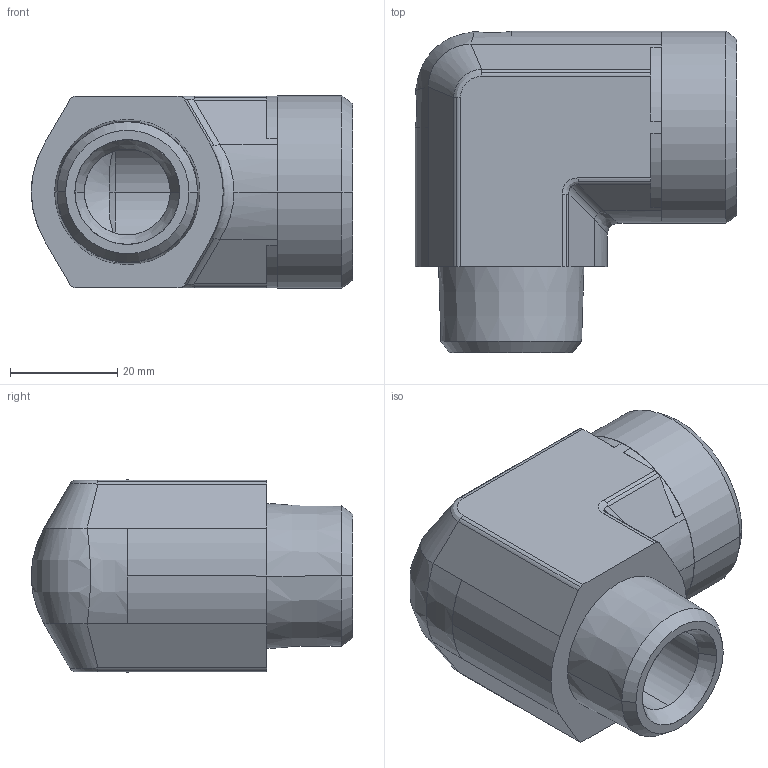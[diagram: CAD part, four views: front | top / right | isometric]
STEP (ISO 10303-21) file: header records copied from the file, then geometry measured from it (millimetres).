
FILE_DESCRIPTION((''),'2;1');
FILE_NAME('102039.stp','2007-10-30T16:34:23',(''),(''),'AutoCAD STEP 2000i','AutoCAD 2000i',', , ');
FILE_SCHEMA(('CONFIG_CONTROL_DESIGN'));
Length unit declared in the file: millimetre
Products named in the file (2): 102039.0; 3090#0
Assembly tree (1 placements, depth 2):
  102039.0
    3090#0
Bounding box: 59.88 x 59.91 x 35.82 mm (x, y, z)
Volume: 55652.2 mm3; surface area: 15354.6 mm2
Topology: 1 solids, 1 shells, 95 faces, 234 edges, 143 vertices
Faces by surface type: cylinder 40, plane 26, cone 15, bspline 14
Entity records: 3825 total; most frequent: CARTESIAN_POINT 1463, DIRECTION 494, ORIENTED_EDGE 468, EDGE_CURVE 234, AXIS2_PLACEMENT_3D 198, VERTEX_POINT 143, CIRCLE 105, EDGE_LOOP 99
